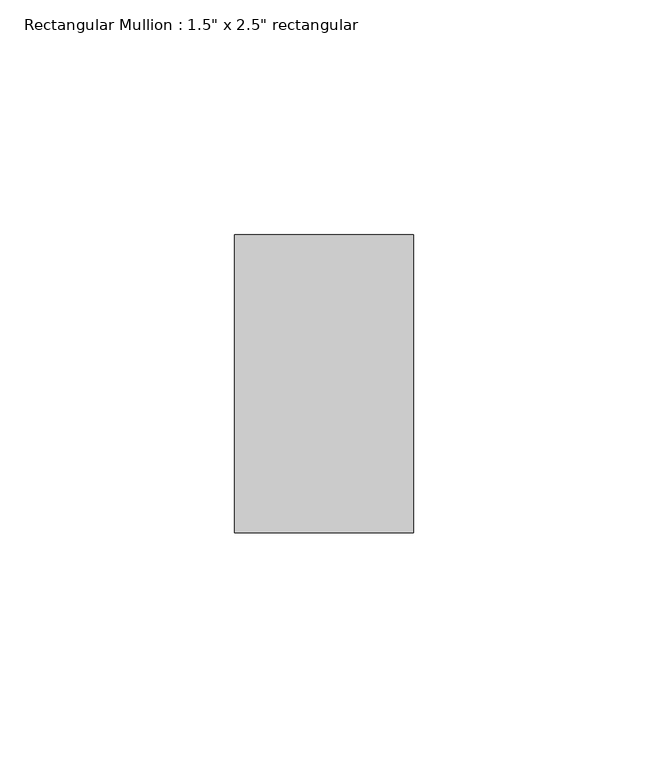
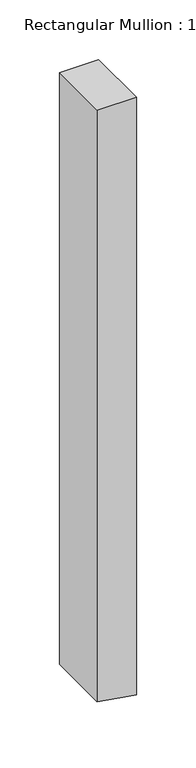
"""IFC4 building model written with IfcOpenShell, lengths in millimetres: member geometry."""

import ifcopenshell
import ifcopenshell.guid

model = None  # the IFC model being written
_history = None  # IfcOwnerHistory: only IFC2X3 demands one
_inside = {}  # id of a spatial element -> (the spatial element, [elements in it])
_under = {}  # id of a project, library or spatial element -> (it, [spatial elements below it])
_declared = {}  # id of a project -> (the project, [libraries it declares])
_typed = {}  # id of a type object -> (the type object, [elements of that type])
_made_of = {}  # id of a material, layer set ... -> (it, [elements and type objects made of it])


def new_model(schema):
    """Start an empty IFC model of exactly this schema.

    Asked for "IFC4X3", IfcOpenShell would pick the latest addendum, in which some entities
    have other attributes; the version numbers below select the first issue.
    IFC2X3 requires an IfcOwnerHistory on every rooted entity: one is made here for all.
    """
    global model, _history
    if schema == "IFC4X3":
        model = ifcopenshell.file(schema_version=(4, 3, 0, 0))
    else:
        model = ifcopenshell.file(schema=schema)
    _inside.clear()
    _under.clear()
    _declared.clear()
    _typed.clear()
    _made_of.clear()
    _history = None
    if model.schema == "IFC2X3":
        org = make("IfcOrganization", Name="unknown")
        user = make(
            "IfcPersonAndOrganization",
            ThePerson=make("IfcPerson", FamilyName="unknown"),
            TheOrganization=org,
        )
        app = make(
            "IfcApplication",
            ApplicationDeveloper=org,
            Version="unknown",
            ApplicationFullName="unknown",
            ApplicationIdentifier="unknown",
        )
        _history = make(
            "IfcOwnerHistory",
            OwningUser=user,
            OwningApplication=app,
            ChangeAction="ADDED",
            CreationDate=0,
        )
    return model


def make(cls, **values):
    """One entity of the class cls with the attributes given. An attribute that is None is left unset."""
    return model.create_entity(
        cls, **{name: value for name, value in values.items() if value is not None}
    )


def rooted(cls, **values):
    """An entity with a GlobalId (a new one), such as an element, a storey or a relation."""
    return make(cls, GlobalId=ifcopenshell.guid.new(), OwnerHistory=_history, **values)


def si_unit(unit_type, name, prefix=None):
    """IfcSIUnit, for example si_unit("LENGTHUNIT", "METRE", prefix="MILLI")."""
    return make("IfcSIUnit", UnitType=unit_type, Prefix=prefix, Name=name)


def assignment(units):
    """IfcUnitAssignment: the units of a project."""
    return None if units is None else make("IfcUnitAssignment", Units=units)


def point(xyz):
    """IfcCartesianPoint."""
    return None if xyz is None else make("IfcCartesianPoint", Coordinates=xyz)


def direction(xyz):
    """IfcDirection."""
    return None if xyz is None else make("IfcDirection", DirectionRatios=xyz)


def frame(location, z_axis=None, x_axis=None):
    """IfcAxis2Placement3D, a coordinate frame: its origin and axes. An axis left out is left unset."""
    return make(
        "IfcAxis2Placement3D",
        Location=point(location),
        Axis=direction(z_axis),
        RefDirection=direction(x_axis),
    )


def origin():
    """The frame at (0, 0, 0) with its axes left unset."""
    return frame((0.0, 0.0, 0.0))


def place(relative_to, where):
    """IfcLocalPlacement: puts the frame where relative to a parent placement (None: the world)."""
    return make(
        "IfcLocalPlacement", PlacementRelTo=relative_to, RelativePlacement=where
    )


def context(
    kind, dimensions, precision=None, world=None, true_north=None, identifier=None
):
    """IfcGeometricRepresentationContext, for example the 3D "Model" context."""
    return make(
        "IfcGeometricRepresentationContext",
        ContextIdentifier=identifier,
        ContextType=kind,
        CoordinateSpaceDimension=dimensions,
        Precision=precision,
        WorldCoordinateSystem=world,
        TrueNorth=true_north,
    )


def project(units=None, contexts=None):
    """IfcProject with its units and contexts."""
    return rooted(
        "IfcProject",
        Name="project",
        RepresentationContexts=contexts,
        UnitsInContext=assignment(units),
    )


def spatial(cls, under=None, at=None, **own):
    """A site, building, storey or space (cls), placed at a placement, below another one or the project."""
    s = rooted(cls, ObjectPlacement=at, **own)
    if under is not None:
        _under.setdefault(under.id(), (under, []))[1].append(s)
    return s


def polyline(points):
    """IfcPolyline through the points."""
    return make("IfcPolyline", Points=[point(p) for p in points])


def outline(outer, holes=None, kind="AREA"):
    """IfcArbitraryClosedProfileDef: a profile drawn as a closed curve; with holes, ...WithVoids."""
    if holes is None:
        return make("IfcArbitraryClosedProfileDef", ProfileType=kind, OuterCurve=outer)
    return make(
        "IfcArbitraryProfileDefWithVoids",
        ProfileType=kind,
        OuterCurve=outer,
        InnerCurves=holes,
    )


def extrude(swept, where, along, depth):
    """IfcExtrudedAreaSolid: the profile swept, set in the frame where, extruded along a direction by depth."""
    return make(
        "IfcExtrudedAreaSolid",
        SweptArea=swept,
        Position=where,
        ExtrudedDirection=direction(along),
        Depth=depth,
    )


def shape(context_of_items, identifier, shape_type, items):
    """IfcShapeRepresentation: the items that make up one representation, for example the "Body"."""
    return make(
        "IfcShapeRepresentation",
        ContextOfItems=context_of_items,
        RepresentationIdentifier=identifier,
        RepresentationType=shape_type,
        Items=items,
    )


def source(mapping_origin, context_of_items, identifier, shape_type, items):
    """IfcRepresentationMap: a shape defined once, which mapped items show again and again."""
    return make(
        "IfcRepresentationMap",
        MappingOrigin=mapping_origin,
        MappedRepresentation=shape(context_of_items, identifier, shape_type, items),
    )


def transform(
    local_origin,
    x_axis=None,
    y_axis=None,
    z_axis=None,
    scale=None,
    scale2=None,
    scale3=None,
    uniform=True,
):
    """IfcCartesianTransformationOperator3D, or its non-uniform kind. x_axis, y_axis, z_axis: its Axis1, 2, 3."""
    if uniform:
        return make(
            "IfcCartesianTransformationOperator3D",
            Axis1=direction(x_axis),
            Axis2=direction(y_axis),
            LocalOrigin=point(local_origin),
            Scale=scale,
            Axis3=direction(z_axis),
        )
    return make(
        "IfcCartesianTransformationOperator3DnonUniform",
        Axis1=direction(x_axis),
        Axis2=direction(y_axis),
        LocalOrigin=point(local_origin),
        Scale=scale,
        Axis3=direction(z_axis),
        Scale2=scale2,
        Scale3=scale3,
    )


def mapped(mapping_source, mapping_target):
    """IfcMappedItem: shows the shape of a source again, moved by a transform."""
    return make(
        "IfcMappedItem", MappingSource=mapping_source, MappingTarget=mapping_target
    )


def made_of(thing, what):
    """Note that an element or type object is made of a material, layer set ...; save() writes the relation."""
    if what is not None:
        _made_of.setdefault(what.id(), (what, []))[1].append(thing)
    return thing


def element(
    cls,
    number,
    at=None,
    inside=None,
    cuts=None,
    type_object=None,
    material=None,
    context=None,
    identifier="Body",
    shape_type=None,
    held_by="IfcProductDefinitionShape",
    body=None,
    shapes=None,
    **own,
):
    """One element of the class cls, such as IfcWall. Its Tag is "e" and its number.

    at: its placement. inside: the storey or other place that contains it. cuts: it is an
    opening in that element (IfcRelVoidsElement). A single representation is given by context,
    identifier, shape_type and body (its items); several are given by shapes. held_by: the class
    of the entity that holds the representations. save() writes the other relations.
    """
    e = rooted(cls, Tag="e%d" % number, ObjectPlacement=at, **own)
    if body is not None:
        shapes = [shape(context, identifier, shape_type, body)]
    if shapes is not None:
        e.Representation = make(held_by, Representations=shapes)
    if inside is not None:
        _inside.setdefault(inside.id(), (inside, []))[1].append(e)
    if cuts is not None:
        rooted(
            "IfcRelVoidsElement", RelatingBuildingElement=cuts, RelatedOpeningElement=e
        )
    if type_object is not None:
        _typed.setdefault(type_object.id(), (type_object, []))[1].append(e)
    return made_of(e, material)


def aggregate(whole, parts):
    """IfcRelAggregates: a whole, such as a stair, and the parts it consists of."""
    return rooted("IfcRelAggregates", RelatingObject=whole, RelatedObjects=parts)


def save(model, path):
    """Write the relations noted so far, then the file.

    IfcRelAggregates (storeys below a building ...), IfcRelContainedInSpatialStructure (elements
    in a storey), IfcRelDefinesByType, IfcRelAssociatesMaterial and IfcRelDeclares: one each for
    every whole, place, type object, material and project.
    """
    for whole, parts in _under.values():
        aggregate(whole, parts)
    for where, things in _inside.values():
        rooted(
            "IfcRelContainedInSpatialStructure",
            RelatedElements=things,
            RelatingStructure=where,
        )
    for kind, things in _typed.values():
        rooted("IfcRelDefinesByType", RelatedObjects=things, RelatingType=kind)
    for what, things in _made_of.values():
        rooted("IfcRelAssociatesMaterial", RelatedObjects=things, RelatingMaterial=what)
    for by, libraries in _declared.values():
        rooted("IfcRelDeclares", RelatingContext=by, RelatedDefinitions=libraries)
    model.write(path)


def member_b94ccd9f(model_context):
    return source(origin(), model_context, "Body", "SweptSolid", [
        extrude(outline(polyline([(0.0, 19.05), (0.0, -19.05), (-607.3816528, -19.05), (-612.2984459, 11.2673803), (-613.843143, 19.05), (0.0, 19.05)])), frame((0.0, -31.75, 0.0), z_axis=(0.0, 1.0, 0.0), x_axis=(0.0, 0.0, 1.0)), (0.0, 0.0, 1.0), 63.5),
    ])


if __name__ == "__main__":
    model = new_model("IFC4")
    model_context = context("Model", 3, world=origin())
    ifc_project = project(units=[si_unit("LENGTHUNIT", "METRE", prefix="MILLI")], contexts=[model_context])
    site = spatial("IfcSite", under=ifc_project)
    building = spatial("IfcBuilding", under=site)
    placement = place(None, origin())
    member_shape = member_b94ccd9f(model_context)
    element("IfcMember", 1, ObjectType="Rectangular Mullion : 1.5\" x 2.5\" rectangular", at=placement, inside=building, context=model_context, shape_type="MappedRepresentation", body=[
        mapped(member_shape, transform((0.0, 0.0, 0.0), x_axis=(1.0, 0.0, 0.0), y_axis=(0.0, 1.0, 0.0), z_axis=(0.0, 0.0, 1.0))),
    ])
    save(model, "model.ifc")
